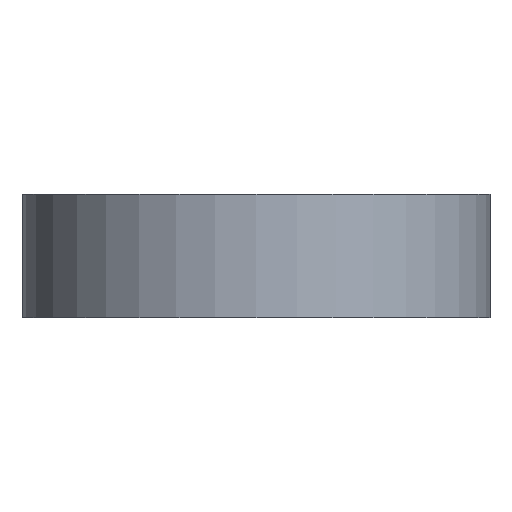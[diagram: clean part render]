
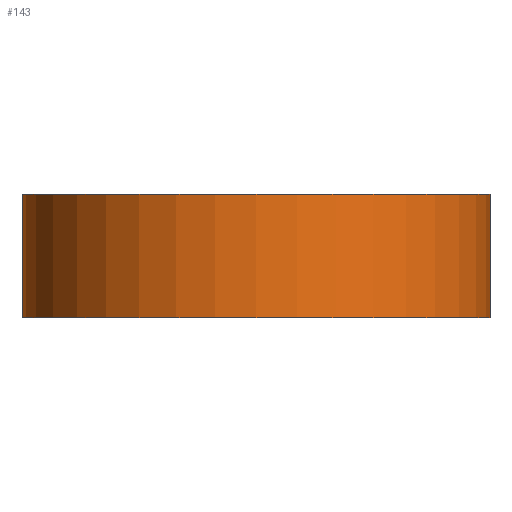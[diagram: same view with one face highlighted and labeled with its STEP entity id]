
A CAD part, front view. The second image highlights one B-rep face of the part: STEP entity #143.
In plain terms, the highlighted cylindrical face has radius 15.2 mm (diameter 30.4 mm), a partial arc.
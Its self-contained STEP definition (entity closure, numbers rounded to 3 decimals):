
#13=CIRCLE('',#166,15.2);
#14=CIRCLE('',#167,15.2);
#22=CYLINDRICAL_SURFACE('',#165,15.2);
#30=ORIENTED_EDGE('',*,*,#64,.T.);
#31=ORIENTED_EDGE('',*,*,#65,.F.);
#32=ORIENTED_EDGE('',*,*,#66,.F.);
#33=ORIENTED_EDGE('',*,*,#61,.T.);
#61=EDGE_CURVE('',#79,#78,#91,.T.);
#64=EDGE_CURVE('',#78,#81,#13,.T.);
#65=EDGE_CURVE('',#82,#81,#94,.T.);
#66=EDGE_CURVE('',#79,#82,#14,.T.);
#78=VERTEX_POINT('',#232);
#79=VERTEX_POINT('',#234);
#81=VERTEX_POINT('',#240);
#82=VERTEX_POINT('',#242);
#91=LINE('',#233,#99);
#94=LINE('',#241,#102);
#99=VECTOR('',#187,1000.);
#102=VECTOR('',#194,1000.);
#107=EDGE_LOOP('',(#30,#31,#32,#33));
#123=FACE_BOUND('',#107,.T.);
#143=ADVANCED_FACE('',(#123),#22,.T.);
#165=AXIS2_PLACEMENT_3D('',#238,#190,#191);
#166=AXIS2_PLACEMENT_3D('',#239,#192,#193);
#167=AXIS2_PLACEMENT_3D('',#243,#195,#196);
#187=DIRECTION('',(0.,0.,-1.));
#190=DIRECTION('',(0.,0.,-1.));
#191=DIRECTION('',(-1.,0.,0.));
#192=DIRECTION('',(0.,0.,1.));
#193=DIRECTION('',(1.,0.,0.));
#194=DIRECTION('',(0.,0.,-1.));
#195=DIRECTION('',(0.,0.,1.));
#196=DIRECTION('',(1.,0.,0.));
#232=CARTESIAN_POINT('',(-66.444,73.55,47.05));
#233=CARTESIAN_POINT('',(-66.444,73.55,55.05));
#234=CARTESIAN_POINT('',(-66.444,73.55,55.05));
#238=CARTESIAN_POINT('',(-51.244,73.55,55.05));
#239=CARTESIAN_POINT('',(-51.244,73.55,47.05));
#240=CARTESIAN_POINT('',(-36.044,73.55,47.05));
#241=CARTESIAN_POINT('',(-36.044,73.55,55.05));
#242=CARTESIAN_POINT('',(-36.044,73.55,55.05));
#243=CARTESIAN_POINT('',(-51.244,73.55,55.05));
